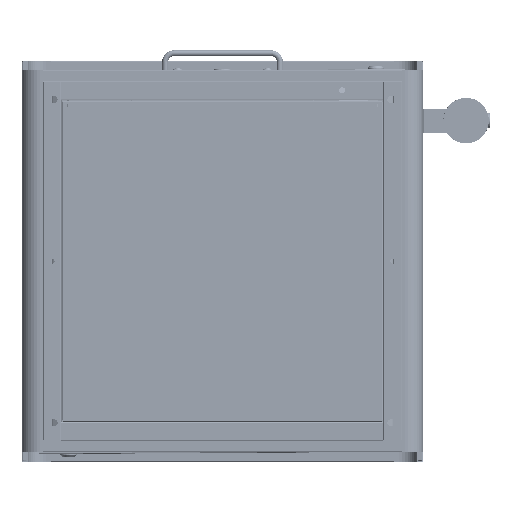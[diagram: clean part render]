
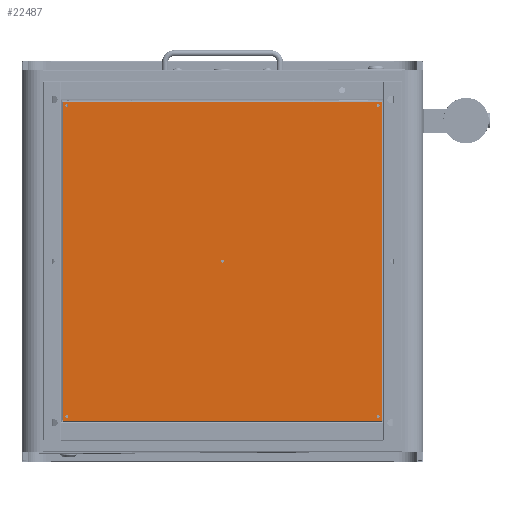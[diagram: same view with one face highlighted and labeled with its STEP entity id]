
A CAD part, front view. The second image highlights one B-rep face of the part: STEP entity #22487.
In plain terms, the highlighted planar face has unit normal (0, -1, 0).
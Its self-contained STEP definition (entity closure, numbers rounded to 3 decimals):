
#913 = CIRCLE ( 'NONE', #43946, 2.5 ) ;
#4347 = DIRECTION ( 'NONE',  ( 0., 1., 0. ) ) ;
#4844 = FACE_BOUND ( 'NONE', #153317, .T. ) ;
#5597 = CARTESIAN_POINT ( 'NONE',  ( 1705.546, 819.624, 1147.308 ) ) ;
#7412 = VERTEX_POINT ( 'NONE', #34673 ) ;
#7855 = EDGE_CURVE ( 'NONE', #292658, #191127, #913, .T. ) ;
#9807 = DIRECTION ( 'NONE',  ( 0., 0., 1. ) ) ;
#15098 = AXIS2_PLACEMENT_3D ( 'NONE', #90061, #196169, #169219 ) ;
#17792 = CARTESIAN_POINT ( 'NONE',  ( 1711.846, 819.624, 1138.508 ) ) ;
#20380 = CIRCLE ( 'NONE', #15098, 2.5 ) ;
#22487 = ADVANCED_FACE ( 'NONE', ( #186872, #30125, #60385, #235733, #4844, #313247 ), #82367, .F. ) ;
#27344 = DIRECTION ( 'NONE',  ( 0., 1., 0. ) ) ;
#28007 = EDGE_LOOP ( 'NONE', ( #249425, #208403 ) ) ;
#30125 = FACE_BOUND ( 'NONE', #105327, .T. ) ;
#31782 = VERTEX_POINT ( 'NONE', #79642 ) ;
#32659 = DIRECTION ( 'NONE',  ( 0., 0., 1. ) ) ;
#34673 = CARTESIAN_POINT ( 'NONE',  ( 1185.546, 819.624, 1667.308 ) ) ;
#35211 = ORIENTED_EDGE ( 'NONE', *, *, #110576, .T. ) ;
#37408 = CIRCLE ( 'NONE', #193621, 2.5 ) ;
#40534 = ORIENTED_EDGE ( 'NONE', *, *, #230794, .T. ) ;
#43946 = AXIS2_PLACEMENT_3D ( 'NONE', #173643, #151628, #47160 ) ;
#47160 = DIRECTION ( 'NONE',  ( 0., 0., 1. ) ) ;
#55865 = AXIS2_PLACEMENT_3D ( 'NONE', #318237, #185205, #57074 ) ;
#56546 = VERTEX_POINT ( 'NONE', #272426 ) ;
#57074 = DIRECTION ( 'NONE',  ( 0., 0., -1. ) ) ;
#60385 = FACE_BOUND ( 'NONE', #28007, .T. ) ;
#65391 = EDGE_CURVE ( 'NONE', #155551, #123468, #222457, .T. ) ;
#65633 = EDGE_CURVE ( 'NONE', #280580, #56546, #37408, .T. ) ;
#75357 = AXIS2_PLACEMENT_3D ( 'NONE', #254001, #277702, #149609 ) ;
#76097 = ORIENTED_EDGE ( 'NONE', *, *, #163025, .T. ) ;
#76602 = CARTESIAN_POINT ( 'NONE',  ( 1711.846, 819.624, 1671.108 ) ) ;
#77743 = ORIENTED_EDGE ( 'NONE', *, *, #7855, .T. ) ;
#77912 = DIRECTION ( 'NONE',  ( 0., 0., -1. ) ) ;
#78282 = DIRECTION ( 'NONE',  ( -1., 0., 0. ) ) ;
#79642 = CARTESIAN_POINT ( 'NONE',  ( 1185.546, 819.624, 1662.308 ) ) ;
#80657 = CARTESIAN_POINT ( 'NONE',  ( 1185.546, 819.624, 1142.308 ) ) ;
#82227 = VERTEX_POINT ( 'NONE', #170351 ) ;
#82367 = PLANE ( 'NONE',  #55865 ) ;
#82761 = VECTOR ( 'NONE', #78282, 1000. ) ;
#84433 = ORIENTED_EDGE ( 'NONE', *, *, #331269, .T. ) ;
#87873 = ORIENTED_EDGE ( 'NONE', *, *, #189576, .T. ) ;
#90061 = CARTESIAN_POINT ( 'NONE',  ( 1185.546, 819.624, 1664.808 ) ) ;
#96798 = CARTESIAN_POINT ( 'NONE',  ( 1705.546, 819.624, 1662.308 ) ) ;
#101269 = CARTESIAN_POINT ( 'NONE',  ( 1705.546, 819.624, 1667.308 ) ) ;
#101781 = VERTEX_POINT ( 'NONE', #101269 ) ;
#103546 = LINE ( 'NONE', #76602, #82761 ) ;
#105327 = EDGE_LOOP ( 'NONE', ( #35211, #84433 ) ) ;
#106578 = DIRECTION ( 'NONE',  ( 0., 0., 1. ) ) ;
#107484 = AXIS2_PLACEMENT_3D ( 'NONE', #184437, #133830, #32659 ) ;
#110576 = EDGE_CURVE ( 'NONE', #287045, #82227, #209890, .T. ) ;
#111343 = VECTOR ( 'NONE', #77912, 1000. ) ;
#116386 = DIRECTION ( 'NONE',  ( 1., 0., 0. ) ) ;
#123468 = VERTEX_POINT ( 'NONE', #311638 ) ;
#126093 = DIRECTION ( 'NONE',  ( 0., 1., 0. ) ) ;
#129106 = CARTESIAN_POINT ( 'NONE',  ( 1185.546, 819.624, 1144.808 ) ) ;
#132919 = AXIS2_PLACEMENT_3D ( 'NONE', #280044, #226154, #306995 ) ;
#133830 = DIRECTION ( 'NONE',  ( 0., 1., 0. ) ) ;
#136615 = CIRCLE ( 'NONE', #201159, 2.5 ) ;
#137976 = EDGE_LOOP ( 'NONE', ( #193054, #219527 ) ) ;
#147446 = AXIS2_PLACEMENT_3D ( 'NONE', #129106, #4347, #257162 ) ;
#149609 = DIRECTION ( 'NONE',  ( 0., 0., 1. ) ) ;
#150428 = CARTESIAN_POINT ( 'NONE',  ( 1179.246, 819.624, 1671.108 ) ) ;
#151628 = DIRECTION ( 'NONE',  ( 0., 1., 0. ) ) ;
#152738 = AXIS2_PLACEMENT_3D ( 'NONE', #258209, #27344, #106578 ) ;
#153317 = EDGE_LOOP ( 'NONE', ( #87873, #188581 ) ) ;
#155551 = VERTEX_POINT ( 'NONE', #319888 ) ;
#155943 = CARTESIAN_POINT ( 'NONE',  ( 1179.246, 819.624, 1671.108 ) ) ;
#163025 = EDGE_CURVE ( 'NONE', #292877, #155551, #226290, .T. ) ;
#166415 = VECTOR ( 'NONE', #116386, 1000. ) ;
#169219 = DIRECTION ( 'NONE',  ( 0., 0., 1. ) ) ;
#170351 = CARTESIAN_POINT ( 'NONE',  ( 1445.546, 819.624, 1402.308 ) ) ;
#170775 = CIRCLE ( 'NONE', #208553, 2.5 ) ;
#173392 = CARTESIAN_POINT ( 'NONE',  ( 1705.546, 819.624, 1144.808 ) ) ;
#173643 = CARTESIAN_POINT ( 'NONE',  ( 1705.546, 819.624, 1144.808 ) ) ;
#177207 = VERTEX_POINT ( 'NONE', #96798 ) ;
#178725 = CARTESIAN_POINT ( 'NONE',  ( 1705.546, 819.624, 1664.808 ) ) ;
#178745 = EDGE_CURVE ( 'NONE', #101781, #177207, #235159, .T. ) ;
#183320 = CARTESIAN_POINT ( 'NONE',  ( 1705.546, 819.624, 1142.308 ) ) ;
#184437 = CARTESIAN_POINT ( 'NONE',  ( 1445.546, 819.624, 1404.808 ) ) ;
#185205 = DIRECTION ( 'NONE',  ( 0., 1., 0. ) ) ;
#186844 = CARTESIAN_POINT ( 'NONE',  ( 1185.546, 819.624, 1144.808 ) ) ;
#186872 = FACE_BOUND ( 'NONE', #137976, .T. ) ;
#188475 = DIRECTION ( 'NONE',  ( 0., 1., 0. ) ) ;
#188581 = ORIENTED_EDGE ( 'NONE', *, *, #65633, .T. ) ;
#189576 = EDGE_CURVE ( 'NONE', #56546, #280580, #292781, .T. ) ;
#191127 = VERTEX_POINT ( 'NONE', #5597 ) ;
#191468 = ORIENTED_EDGE ( 'NONE', *, *, #65391, .T. ) ;
#191976 = CARTESIAN_POINT ( 'NONE',  ( 1445.546, 819.624, 1407.308 ) ) ;
#193054 = ORIENTED_EDGE ( 'NONE', *, *, #208580, .T. ) ;
#193621 = AXIS2_PLACEMENT_3D ( 'NONE', #186844, #188475, #9807 ) ;
#196169 = DIRECTION ( 'NONE',  ( 0., 1., 0. ) ) ;
#200837 = EDGE_CURVE ( 'NONE', #31782, #7412, #211950, .T. ) ;
#200971 = EDGE_CURVE ( 'NONE', #177207, #101781, #136615, .T. ) ;
#201159 = AXIS2_PLACEMENT_3D ( 'NONE', #178725, #224324, #327136 ) ;
#204514 = ORIENTED_EDGE ( 'NONE', *, *, #256586, .T. ) ;
#208403 = ORIENTED_EDGE ( 'NONE', *, *, #200971, .T. ) ;
#208553 = AXIS2_PLACEMENT_3D ( 'NONE', #173392, #126093, #228889 ) ;
#208580 = EDGE_CURVE ( 'NONE', #7412, #31782, #20380, .T. ) ;
#209890 = CIRCLE ( 'NONE', #75357, 2.5 ) ;
#210320 = CARTESIAN_POINT ( 'NONE',  ( 1711.846, 819.624, 1671.108 ) ) ;
#211950 = CIRCLE ( 'NONE', #152738, 2.5 ) ;
#212604 = VERTEX_POINT ( 'NONE', #210320 ) ;
#219527 = ORIENTED_EDGE ( 'NONE', *, *, #200837, .T. ) ;
#222457 = LINE ( 'NONE', #325282, #166415 ) ;
#224324 = DIRECTION ( 'NONE',  ( 0., 1., 0. ) ) ;
#226154 = DIRECTION ( 'NONE',  ( 0., 1., 0. ) ) ;
#226290 = LINE ( 'NONE', #150428, #111343 ) ;
#228889 = DIRECTION ( 'NONE',  ( 0., 0., 1. ) ) ;
#230794 = EDGE_CURVE ( 'NONE', #212604, #292877, #103546, .T. ) ;
#235159 = CIRCLE ( 'NONE', #132919, 2.5 ) ;
#235733 = FACE_BOUND ( 'NONE', #259341, .T. ) ;
#249425 = ORIENTED_EDGE ( 'NONE', *, *, #178745, .T. ) ;
#251949 = DIRECTION ( 'NONE',  ( 0., 0., 1. ) ) ;
#252724 = CIRCLE ( 'NONE', #107484, 2.5 ) ;
#254001 = CARTESIAN_POINT ( 'NONE',  ( 1445.546, 819.624, 1404.808 ) ) ;
#256586 = EDGE_CURVE ( 'NONE', #123468, #212604, #272321, .T. ) ;
#257162 = DIRECTION ( 'NONE',  ( 0., 0., 1. ) ) ;
#258209 = CARTESIAN_POINT ( 'NONE',  ( 1185.546, 819.624, 1664.808 ) ) ;
#259341 = EDGE_LOOP ( 'NONE', ( #284510, #77743 ) ) ;
#263664 = EDGE_CURVE ( 'NONE', #191127, #292658, #170775, .T. ) ;
#272321 = LINE ( 'NONE', #17792, #313932 ) ;
#272426 = CARTESIAN_POINT ( 'NONE',  ( 1185.546, 819.624, 1147.308 ) ) ;
#277702 = DIRECTION ( 'NONE',  ( 0., 1., 0. ) ) ;
#280044 = CARTESIAN_POINT ( 'NONE',  ( 1705.546, 819.624, 1664.808 ) ) ;
#280580 = VERTEX_POINT ( 'NONE', #80657 ) ;
#284510 = ORIENTED_EDGE ( 'NONE', *, *, #263664, .T. ) ;
#287045 = VERTEX_POINT ( 'NONE', #191976 ) ;
#292658 = VERTEX_POINT ( 'NONE', #183320 ) ;
#292781 = CIRCLE ( 'NONE', #147446, 2.5 ) ;
#292877 = VERTEX_POINT ( 'NONE', #155943 ) ;
#297201 = EDGE_LOOP ( 'NONE', ( #76097, #191468, #204514, #40534 ) ) ;
#306995 = DIRECTION ( 'NONE',  ( 0., 0., 1. ) ) ;
#311638 = CARTESIAN_POINT ( 'NONE',  ( 1711.846, 819.624, 1138.508 ) ) ;
#313247 = FACE_OUTER_BOUND ( 'NONE', #297201, .T. ) ;
#313932 = VECTOR ( 'NONE', #251949, 1000. ) ;
#318237 = CARTESIAN_POINT ( 'NONE',  ( 1445.546, 819.624, 1404.808 ) ) ;
#319888 = CARTESIAN_POINT ( 'NONE',  ( 1179.246, 819.624, 1138.508 ) ) ;
#325282 = CARTESIAN_POINT ( 'NONE',  ( 1179.246, 819.624, 1138.508 ) ) ;
#327136 = DIRECTION ( 'NONE',  ( 0., 0., 1. ) ) ;
#331269 = EDGE_CURVE ( 'NONE', #82227, #287045, #252724, .T. ) ;
